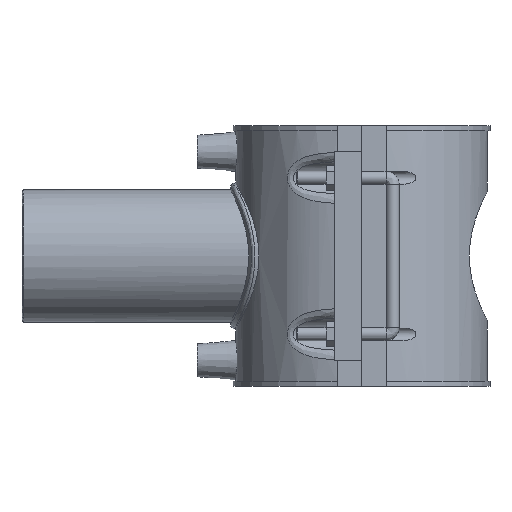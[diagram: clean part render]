
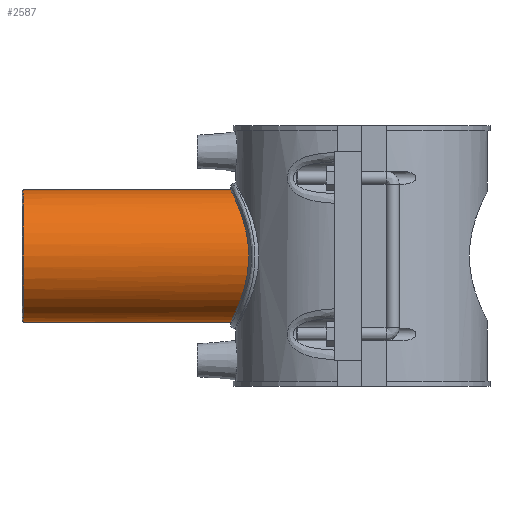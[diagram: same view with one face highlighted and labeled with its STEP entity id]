
A CAD part, left-side view. The second image highlights one B-rep face of the part: STEP entity #2587.
In plain terms, the highlighted cylindrical face has radius 30.05 mm (diameter 60.1 mm), a full revolution.
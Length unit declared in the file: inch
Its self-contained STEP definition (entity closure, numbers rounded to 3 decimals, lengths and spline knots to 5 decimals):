
#143=CIRCLE('',#2756,1.18307);
#245=FACE_OUTER_BOUND('',#394,.T.);
#394=EDGE_LOOP('',(#1773,#1774,#1775,#1776));
#567=LINE('',#3924,#819);
#819=VECTOR('',#3001,1.18307);
#1073=B_SPLINE_CURVE_WITH_KNOTS('',3,(#3858,#3859,#3860,#3861,#3862,#3863,
#3864,#3865,#3866,#3867,#3868,#3869,#3870,#3871,#3872,#3873,#3874,#3875,
#3876,#3877,#3878,#3879,#3880,#3881,#3882,#3883,#3884,#3885,#3886,#3887,
#3888,#3889,#3890,#3891,#3892,#3893,#3894,#3895,#3896,#3897,#3898,#3899,
#3900,#3901,#3902,#3903,#3904,#3905,#3906,#3907,#3908,#3909,#3910,#3911,
#3912,#3913,#3914,#3915,#3916,#3917,#3918,#3919,#3920,#3921,#3922,#3923),
 .UNSPECIFIED.,.T.,.F.,(4,2,2,2,2,2,2,2,2,2,2,2,2,2,2,2,2,2,2,2,2,2,2,2,
2,2,2,2,2,2,2,2,4),(0.,0.57873,1.15747,1.7362,
2.31493,2.89199,3.46905,4.04611,4.62317,
5.20023,5.77729,6.35435,6.93141,7.51014,
8.08887,8.6676,9.24634,9.82507,10.4038,
10.98254,11.56127,12.13833,12.71539,13.29245,
13.86951,14.44657,15.02363,15.60068,16.17774,
16.75648,17.33521,17.91394,18.49268),
 .UNSPECIFIED.);
#1120=VERTEX_POINT('',#3851);
#1122=VERTEX_POINT('',#3857);
#1376=EDGE_CURVE('',#1120,#1120,#143,.T.);
#1379=EDGE_CURVE('',#1122,#1122,#1073,.T.);
#1380=EDGE_CURVE('',#1122,#1120,#567,.T.);
#1773=ORIENTED_EDGE('',*,*,#1379,.F.);
#1774=ORIENTED_EDGE('',*,*,#1380,.T.);
#1775=ORIENTED_EDGE('',*,*,#1376,.F.);
#1776=ORIENTED_EDGE('',*,*,#1380,.F.);
#2548=CYLINDRICAL_SURFACE('',#2758,1.18307);
#2587=ADVANCED_FACE('',(#245),#2548,.T.);
#2756=AXIS2_PLACEMENT_3D('',#3852,#2994,#2995);
#2758=AXIS2_PLACEMENT_3D('',#3856,#2999,#3000);
#2994=DIRECTION('center_axis',(0.,1.,0.));
#2995=DIRECTION('ref_axis',(1.,0.,0.));
#2999=DIRECTION('center_axis',(0.,-1.,0.));
#3000=DIRECTION('ref_axis',(1.,0.,0.));
#3001=DIRECTION('',(0.,1.,0.));
#3851=CARTESIAN_POINT('',(-1.18307,6.0324,0.));
#3852=CARTESIAN_POINT('Origin',(0.,6.0324,0.));
#3856=CARTESIAN_POINT('Origin',(0.,6.05606,0.));
#3857=CARTESIAN_POINT('',(-1.18307,2.01415,0.));
#3858=CARTESIAN_POINT('Ctrl Pts',(-1.18307,2.01415,0.));
#3859=CARTESIAN_POINT('Ctrl Pts',(-1.18307,2.01415,-0.07595));
#3860=CARTESIAN_POINT('Ctrl Pts',(-1.17564,2.01857,-0.15391));
#3861=CARTESIAN_POINT('Ctrl Pts',(-1.14499,2.03612,-0.30794));
#3862=CARTESIAN_POINT('Ctrl Pts',(-1.12177,2.04921,-0.38402));
#3863=CARTESIAN_POINT('Ctrl Pts',(-1.06104,2.0813,-0.52919));
#3864=CARTESIAN_POINT('Ctrl Pts',(-1.02347,2.10029,-0.59842));
#3865=CARTESIAN_POINT('Ctrl Pts',(-0.93715,2.1402,-0.72618));
#3866=CARTESIAN_POINT('Ctrl Pts',(-0.88839,2.16109,-0.78473));
#3867=CARTESIAN_POINT('Ctrl Pts',(-0.78488,2.20079,-0.88824));
#3868=CARTESIAN_POINT('Ctrl Pts',(-0.72641,2.22109,-0.93698));
#3869=CARTESIAN_POINT('Ctrl Pts',(-0.59861,2.25888,-1.02336));
#3870=CARTESIAN_POINT('Ctrl Pts',(-0.52928,2.27636,-1.061));
#3871=CARTESIAN_POINT('Ctrl Pts',(-0.38389,2.30534,-1.12183));
#3872=CARTESIAN_POINT('Ctrl Pts',(-0.3077,2.31685,-1.14505));
#3873=CARTESIAN_POINT('Ctrl Pts',(-0.15362,2.33213,-1.17568));
#3874=CARTESIAN_POINT('Ctrl Pts',(-0.07573,2.33591,-1.18307));
#3875=CARTESIAN_POINT('Ctrl Pts',(0.07573,2.33591,-1.18307));
#3876=CARTESIAN_POINT('Ctrl Pts',(0.15362,2.33213,-1.17568));
#3877=CARTESIAN_POINT('Ctrl Pts',(0.3077,2.31685,-1.14505));
#3878=CARTESIAN_POINT('Ctrl Pts',(0.38389,2.30534,-1.12183));
#3879=CARTESIAN_POINT('Ctrl Pts',(0.52928,2.27636,-1.061));
#3880=CARTESIAN_POINT('Ctrl Pts',(0.59861,2.25888,-1.02336));
#3881=CARTESIAN_POINT('Ctrl Pts',(0.72641,2.22109,-0.93698));
#3882=CARTESIAN_POINT('Ctrl Pts',(0.78488,2.20079,-0.88824));
#3883=CARTESIAN_POINT('Ctrl Pts',(0.88839,2.16109,-0.78473));
#3884=CARTESIAN_POINT('Ctrl Pts',(0.93715,2.1402,-0.72618));
#3885=CARTESIAN_POINT('Ctrl Pts',(1.02347,2.10029,-0.59842));
#3886=CARTESIAN_POINT('Ctrl Pts',(1.06104,2.0813,-0.52919));
#3887=CARTESIAN_POINT('Ctrl Pts',(1.12177,2.04921,-0.38402));
#3888=CARTESIAN_POINT('Ctrl Pts',(1.14499,2.03612,-0.30794));
#3889=CARTESIAN_POINT('Ctrl Pts',(1.17564,2.01857,-0.15391));
#3890=CARTESIAN_POINT('Ctrl Pts',(1.18307,2.01415,-0.07595));
#3891=CARTESIAN_POINT('Ctrl Pts',(1.18307,2.01415,0.07595));
#3892=CARTESIAN_POINT('Ctrl Pts',(1.17564,2.01857,0.15391));
#3893=CARTESIAN_POINT('Ctrl Pts',(1.14499,2.03612,0.30794));
#3894=CARTESIAN_POINT('Ctrl Pts',(1.12177,2.04921,0.38402));
#3895=CARTESIAN_POINT('Ctrl Pts',(1.06104,2.0813,0.52919));
#3896=CARTESIAN_POINT('Ctrl Pts',(1.02347,2.10029,0.59842));
#3897=CARTESIAN_POINT('Ctrl Pts',(0.93715,2.1402,0.72618));
#3898=CARTESIAN_POINT('Ctrl Pts',(0.88839,2.16109,0.78473));
#3899=CARTESIAN_POINT('Ctrl Pts',(0.78488,2.20079,0.88824));
#3900=CARTESIAN_POINT('Ctrl Pts',(0.72641,2.22109,0.93698));
#3901=CARTESIAN_POINT('Ctrl Pts',(0.59861,2.25888,1.02336));
#3902=CARTESIAN_POINT('Ctrl Pts',(0.52928,2.27636,1.061));
#3903=CARTESIAN_POINT('Ctrl Pts',(0.38389,2.30534,1.12183));
#3904=CARTESIAN_POINT('Ctrl Pts',(0.3077,2.31685,1.14505));
#3905=CARTESIAN_POINT('Ctrl Pts',(0.15362,2.33213,1.17568));
#3906=CARTESIAN_POINT('Ctrl Pts',(0.07573,2.33591,1.18307));
#3907=CARTESIAN_POINT('Ctrl Pts',(-0.07573,2.33591,
1.18307));
#3908=CARTESIAN_POINT('Ctrl Pts',(-0.15362,2.33213,1.17568));
#3909=CARTESIAN_POINT('Ctrl Pts',(-0.3077,2.31685,1.14505));
#3910=CARTESIAN_POINT('Ctrl Pts',(-0.38389,2.30534,1.12183));
#3911=CARTESIAN_POINT('Ctrl Pts',(-0.52928,2.27636,1.061));
#3912=CARTESIAN_POINT('Ctrl Pts',(-0.59861,2.25888,1.02336));
#3913=CARTESIAN_POINT('Ctrl Pts',(-0.72641,2.22109,0.93698));
#3914=CARTESIAN_POINT('Ctrl Pts',(-0.78488,2.20079,0.88824));
#3915=CARTESIAN_POINT('Ctrl Pts',(-0.88839,2.16109,0.78473));
#3916=CARTESIAN_POINT('Ctrl Pts',(-0.93715,2.1402,0.72618));
#3917=CARTESIAN_POINT('Ctrl Pts',(-1.02347,2.10029,0.59842));
#3918=CARTESIAN_POINT('Ctrl Pts',(-1.06104,2.0813,0.52919));
#3919=CARTESIAN_POINT('Ctrl Pts',(-1.12177,2.04921,0.38402));
#3920=CARTESIAN_POINT('Ctrl Pts',(-1.14499,2.03612,0.30794));
#3921=CARTESIAN_POINT('Ctrl Pts',(-1.17564,2.01857,0.15391));
#3922=CARTESIAN_POINT('Ctrl Pts',(-1.18307,2.01415,0.07595));
#3923=CARTESIAN_POINT('Ctrl Pts',(-1.18307,2.01415,0.));
#3924=CARTESIAN_POINT('',(-1.18307,6.05606,0.));
